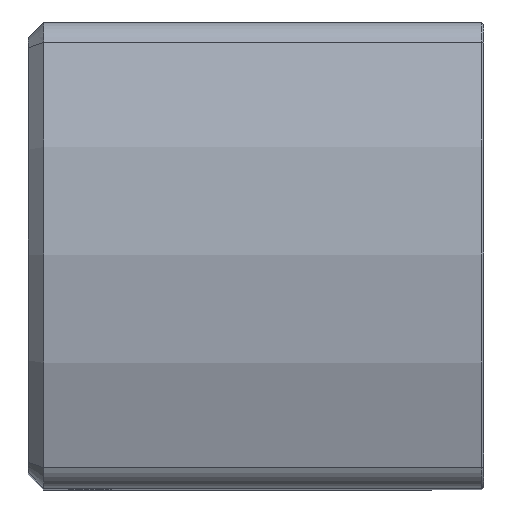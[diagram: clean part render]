
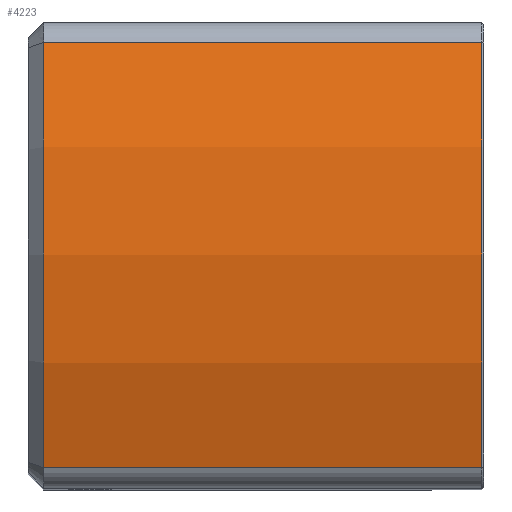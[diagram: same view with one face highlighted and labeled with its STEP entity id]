
A CAD part, top view. The second image highlights one B-rep face of the part: STEP entity #4223.
In plain terms, the highlighted cylindrical face has radius 60 mm (diameter 120 mm), a partial arc.
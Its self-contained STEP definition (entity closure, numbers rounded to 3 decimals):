
#463=LINE('',#6800,#784);
#464=LINE('',#6802,#785);
#784=VECTOR('',#5124,10.);
#785=VECTOR('',#5127,10.);
#1028=CYLINDRICAL_SURFACE('',#4530,60.);
#1134=FACE_OUTER_BOUND('',#1390,.T.);
#1390=EDGE_LOOP('',(#3169,#3170,#3171,#3172));
#1641=CIRCLE('',#4520,60.);
#1644=CIRCLE('',#4526,60.);
#1885=VERTEX_POINT('',#6780);
#1886=VERTEX_POINT('',#6784);
#1887=VERTEX_POINT('',#6790);
#1888=VERTEX_POINT('',#6794);
#2371=EDGE_CURVE('',#1885,#1886,#1641,.T.);
#2376=EDGE_CURVE('',#1888,#1887,#1644,.T.);
#2378=EDGE_CURVE('',#1887,#1885,#463,.T.);
#2379=EDGE_CURVE('',#1886,#1888,#464,.T.);
#3169=ORIENTED_EDGE('',*,*,#2371,.F.);
#3170=ORIENTED_EDGE('',*,*,#2378,.F.);
#3171=ORIENTED_EDGE('',*,*,#2376,.F.);
#3172=ORIENTED_EDGE('',*,*,#2379,.F.);
#4223=ADVANCED_FACE('',(#1134),#1028,.T.);
#4520=AXIS2_PLACEMENT_3D('',#6786,#5102,#5103);
#4526=AXIS2_PLACEMENT_3D('',#6796,#5116,#5117);
#4530=AXIS2_PLACEMENT_3D('',#6801,#5125,#5126);
#5102=DIRECTION('center_axis',(-1.,0.,0.));
#5103=DIRECTION('ref_axis',(0.,0.375,0.927));
#5116=DIRECTION('center_axis',(1.,0.,0.));
#5117=DIRECTION('ref_axis',(0.,0.375,0.927));
#5124=DIRECTION('',(-1.,0.,0.));
#5125=DIRECTION('center_axis',(1.,0.,0.));
#5126=DIRECTION('ref_axis',(0.,-0.375,-0.927));
#5127=DIRECTION('',(1.,0.,0.));
#6780=CARTESIAN_POINT('',(-42.5,-20.526,46.38));
#6784=CARTESIAN_POINT('',(-42.5,20.526,46.38));
#6786=CARTESIAN_POINT('Origin',(-42.5,0.,-10.));
#6790=CARTESIAN_POINT('',(-0.2,-20.526,46.38));
#6794=CARTESIAN_POINT('',(-0.2,20.526,46.38));
#6796=CARTESIAN_POINT('Origin',(-0.2,0.,
-10.));
#6800=CARTESIAN_POINT('',(-44.,-20.526,46.38));
#6801=CARTESIAN_POINT('Origin',(-44.,0.,
-10.));
#6802=CARTESIAN_POINT('',(-44.,20.526,46.38));
